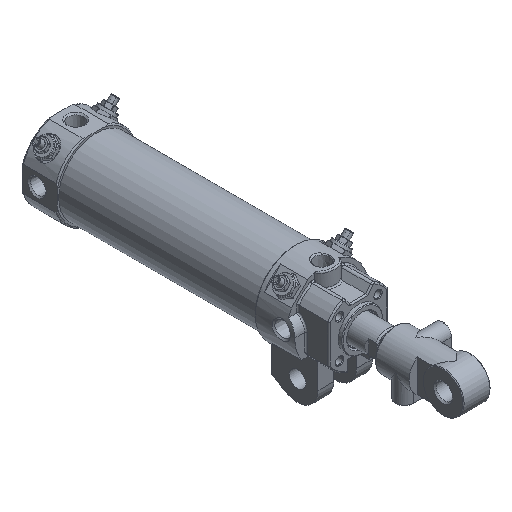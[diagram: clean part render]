
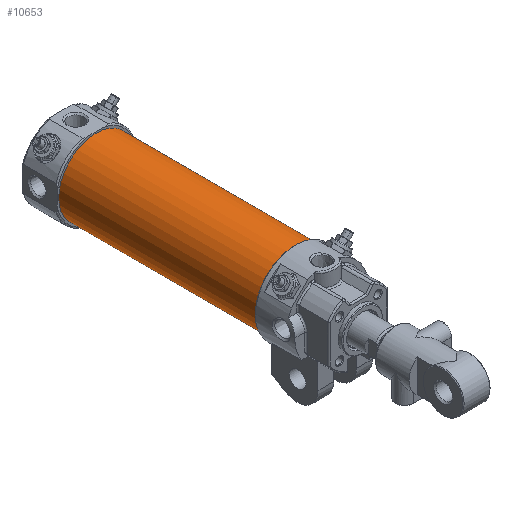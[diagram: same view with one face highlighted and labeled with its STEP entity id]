
A CAD part, isometric view. The second image highlights one B-rep face of the part: STEP entity #10653.
In plain terms, the highlighted cylindrical face has radius 27.5 mm (diameter 55 mm), a full revolution.
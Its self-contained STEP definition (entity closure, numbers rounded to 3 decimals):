
#2742=CARTESIAN_POINT('',(27.5,196.0,0.));
#2743=VERTEX_POINT('',#2742);
#2744=CARTESIAN_POINT('',(0.,196.0,0.));
#2745=DIRECTION('',(0.0,-1.0,0.0));
#2746=DIRECTION('',(-1.0,0.0,0.0));
#2747=AXIS2_PLACEMENT_3D('',#2744,#2745,#2746);
#2748=CIRCLE('',#2747,27.5);
#2749=EDGE_CURVE('',#2743,#2743,#2748,.T.);
#10630=CARTESIAN_POINT('',(27.5,50.,0.));
#10631=VERTEX_POINT('',#10630);
#10632=CARTESIAN_POINT('',(0.,50.,0.));
#10633=DIRECTION('',(0.0,-1.0,0.0));
#10634=DIRECTION('',(-1.0,0.0,0.0));
#10635=AXIS2_PLACEMENT_3D('',#10632,#10633,#10634);
#10636=CIRCLE('',#10635,27.5);
#10637=EDGE_CURVE('',#10631,#10631,#10636,.T.);
#10642=CARTESIAN_POINT('',(0.,50.,0.));
#10643=DIRECTION('',(0.0,1.0,0.));
#10644=DIRECTION('',(-1.0,0.0,0.0));
#10645=AXIS2_PLACEMENT_3D('',#10642,#10643,#10644);
#10646=CYLINDRICAL_SURFACE('',#10645,27.5);
#10647=ORIENTED_EDGE('',*,*,#2749,.T.);
#10648=EDGE_LOOP('',(#10647));
#10649=FACE_OUTER_BOUND('',#10648,.T.);
#10650=ORIENTED_EDGE('',*,*,#10637,.F.);
#10651=EDGE_LOOP('',(#10650));
#10652=FACE_BOUND('',#10651,.T.);
#10653=ADVANCED_FACE('',(#10649,#10652),#10646,.T.);
